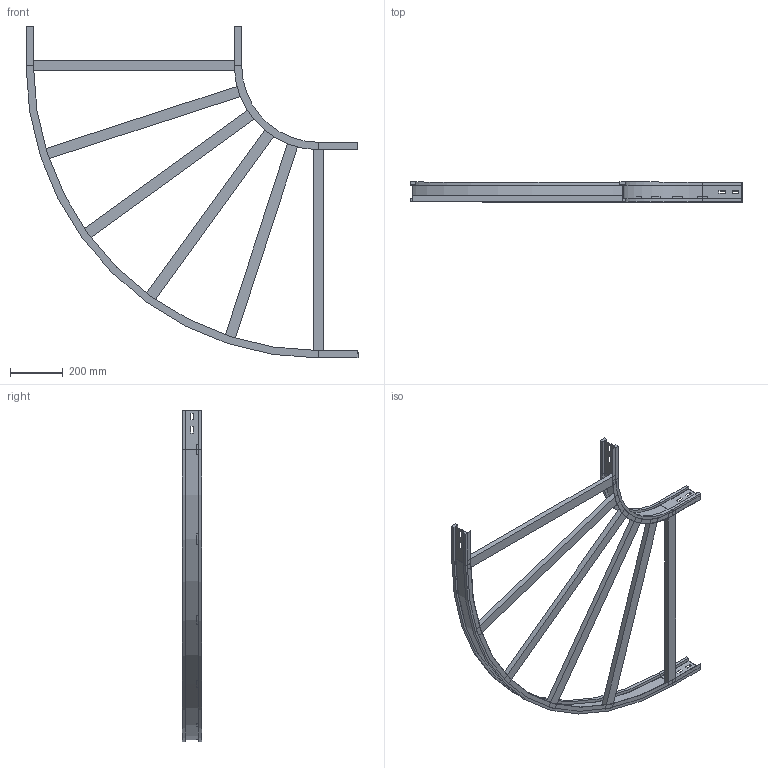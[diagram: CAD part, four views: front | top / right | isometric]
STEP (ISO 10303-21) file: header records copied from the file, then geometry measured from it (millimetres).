
FILE_DESCRIPTION (( 'STEP AP214' ), '1' );
FILE_NAME ('10S3C800.step', '2025-02-21T16:11:32', ( '' ), ( '' ), 'SwSTEP 2.0', 'SolidWorks 2023', '' );
FILE_SCHEMA (( 'AUTOMOTIVE_DESIGN' ));
Length unit declared in the file: millimetre
Products named in the file (4): 10S3C800; LONGH.ESTERNO 90°_H75_R300+800; LONGH.INTERNO 90°_H75_R300; TRAVERSINO_800
Assembly tree (8 placements, depth 2):
  10S3C800
    LONGH.INTERNO 90°_H75_R300
    LONGH.ESTERNO 90°_H75_R300+800
    TRAVERSINO_800  x6
Bounding box: 1259 x 75 x 1259 mm (x, y, z)
Volume: 5249983.8 mm3; surface area: 1278910.4 mm2
Topology: 8 solids, 8 shells, 144 faces, 336 edges, 208 vertices
Faces by surface type: plane 132, cylinder 12
Entity records: 3413 total; most frequent: CARTESIAN_POINT 569, ORIENTED_EDGE 552, DIRECTION 550, EDGE_CURVE 276, LINE 252, VECTOR 252, VERTEX_POINT 168, AXIS2_PLACEMENT_3D 149
